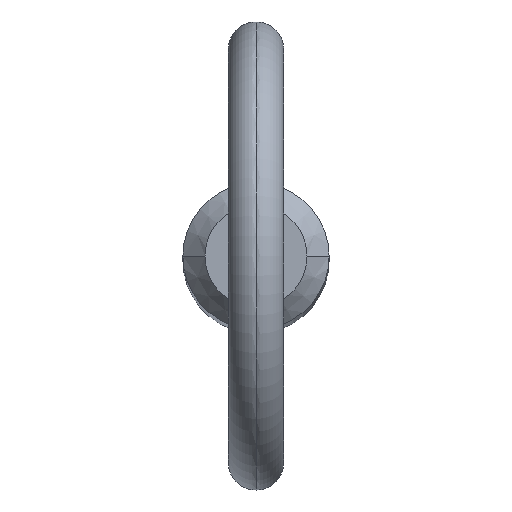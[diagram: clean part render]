
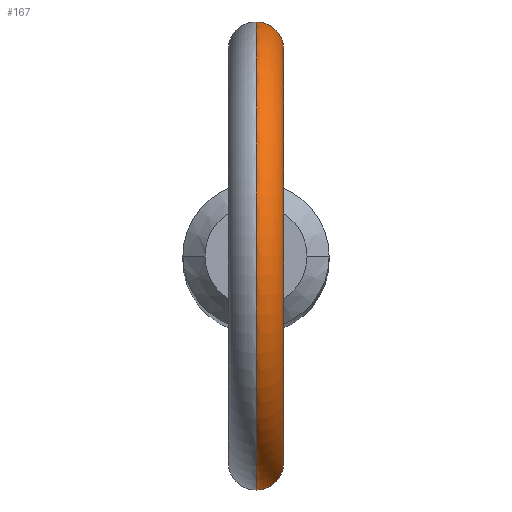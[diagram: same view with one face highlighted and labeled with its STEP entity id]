
A CAD part, top view. The second image highlights one B-rep face of the part: STEP entity #167.
In plain terms, the highlighted toroidal (fillet/blend) face has major radius 11.2 mm and minor radius 1.5 mm.
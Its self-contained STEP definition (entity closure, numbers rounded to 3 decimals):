
#2 = CARTESIAN_POINT ( 'NONE',  ( 0.411, 3.948, 115.591 ) ) ;
#3 = VERTEX_POINT ( 'NONE', #494 ) ;
#7 = DIRECTION ( 'NONE',  ( 0., 0., -1. ) ) ;
#9 = CARTESIAN_POINT ( 'NONE',  ( 1.346, -3.73, 113.208 ) ) ;
#18 = CARTESIAN_POINT ( 'NONE',  ( 0.782, 3.888, 112.637 ) ) ;
#19 = CIRCLE ( 'NONE', #153, 9.7 ) ;
#30 = CARTESIAN_POINT ( 'NONE',  ( 1.488, 3.675, 114.205 ) ) ;
#38 = CARTESIAN_POINT ( 'NONE',  ( 0., 3.965, 112.435 ) ) ;
#41 = DIRECTION ( 'NONE',  ( 0., 0., -1. ) ) ;
#47 = DIRECTION ( 'NONE',  ( 1., 0., 0. ) ) ;
#60 = CARTESIAN_POINT ( 'NONE',  ( 0., -3.965, 112.435 ) ) ;
#64 = AXIS2_PLACEMENT_3D ( 'NONE', #255, #291, #446 ) ;
#74 = CARTESIAN_POINT ( 'NONE',  ( 1.185, 3.786, 114.96 ) ) ;
#85 = CARTESIAN_POINT ( 'NONE',  ( 0., 3.965, 115.647 ) ) ;
#87 = CARTESIAN_POINT ( 'NONE',  ( 0., 3.965, 112.435 ) ) ;
#91 = CARTESIAN_POINT ( 'NONE',  ( 1.493, -3.673, 114.104 ) ) ;
#96 = CARTESIAN_POINT ( 'NONE',  ( 1.028, -3.83, 112.815 ) ) ;
#97 = B_SPLINE_CURVE_WITH_KNOTS ( 'NONE', 3,
 ( #168, #483, #367, #123, #247, #370, #332, #409, #444, #162, #205, #479, #91, #372, #129, #411, #249, #9, #339, #96, #422, #377, #137, #260, #257, #60 ),
 .UNSPECIFIED., .F., .F.,
 ( 4, 2, 2, 2, 2, 2, 2, 2, 2, 2, 2, 2, 4 ),
 ( 0.004, 0.005, 0.005, 0.005, 0.006, 0.006, 0.007, 0.007, 0.007, 0.008, 0.008, 0.008, 0.009 ),
 .UNSPECIFIED. ) ;
#101 = EDGE_LOOP ( 'NONE', ( #310, #485, #102, #493 ) ) ;
#102 = ORIENTED_EDGE ( 'NONE', *, *, #311, .F. ) ;
#105 = VERTEX_POINT ( 'NONE', #316 ) ;
#119 = CARTESIAN_POINT ( 'NONE',  ( 0.927, 3.858, 115.267 ) ) ;
#123 = CARTESIAN_POINT ( 'NONE',  ( 0.404, -3.946, 115.582 ) ) ;
#129 = CARTESIAN_POINT ( 'NONE',  ( 1.499, -3.671, 113.797 ) ) ;
#132 = CARTESIAN_POINT ( 'NONE',  ( 0., 0., 124.5 ) ) ;
#137 = CARTESIAN_POINT ( 'NONE',  ( 0.693, -3.905, 112.59 ) ) ;
#139 = CARTESIAN_POINT ( 'NONE',  ( 0.41, 3.948, 112.474 ) ) ;
#153 = AXIS2_PLACEMENT_3D ( 'NONE', #132, #47, #7 ) ;
#162 = CARTESIAN_POINT ( 'NONE',  ( 1.404, -3.708, 114.501 ) ) ;
#164 = CARTESIAN_POINT ( 'NONE',  ( 0., 3.965, 115.647 ) ) ;
#167 = ADVANCED_FACE ( 'NONE', ( #473 ), #459, .T. ) ;
#168 = CARTESIAN_POINT ( 'NONE',  ( 0., -3.965, 115.647 ) ) ;
#175 = CARTESIAN_POINT ( 'NONE',  ( 1.236, 3.77, 113.029 ) ) ;
#179 = VERTEX_POINT ( 'NONE', #38 ) ;
#184 = CARTESIAN_POINT ( 'NONE',  ( 1.291, 3.75, 114.784 ) ) ;
#192 = CARTESIAN_POINT ( 'NONE',  ( 1.499, 3.671, 113.794 ) ) ;
#197 = CARTESIAN_POINT ( 'NONE',  ( 0.769, 3.894, 115.401 ) ) ;
#200 = CARTESIAN_POINT ( 'NONE',  ( 0.204, 3.965, 112.435 ) ) ;
#205 = CARTESIAN_POINT ( 'NONE',  ( 1.434, -3.697, 114.405 ) ) ;
#223 = CARTESIAN_POINT ( 'NONE',  ( 1.344, 3.731, 113.203 ) ) ;
#240 = DIRECTION ( 'NONE',  ( 1., 0., 0. ) ) ;
#243 = EDGE_CURVE ( 'NONE', #490, #105, #19, .T. ) ;
#247 = CARTESIAN_POINT ( 'NONE',  ( 0.498, -3.935, 115.544 ) ) ;
#249 = CARTESIAN_POINT ( 'NONE',  ( 1.447, -3.692, 113.493 ) ) ;
#255 = CARTESIAN_POINT ( 'NONE',  ( 0., 0., 124.5 ) ) ;
#257 = CARTESIAN_POINT ( 'NONE',  ( 0.205, -3.965, 112.435 ) ) ;
#260 = CARTESIAN_POINT ( 'NONE',  ( 0.409, -3.948, 112.474 ) ) ;
#283 = AXIS2_PLACEMENT_3D ( 'NONE', #394, #240, #41 ) ;
#291 = DIRECTION ( 'NONE',  ( 1., 0., 0. ) ) ;
#302 = CARTESIAN_POINT ( 'NONE',  ( 0.691, 3.905, 112.589 ) ) ;
#305 = CARTESIAN_POINT ( 'NONE',  ( 0.949, 3.851, 112.749 ) ) ;
#310 = ORIENTED_EDGE ( 'NONE', *, *, #348, .F. ) ;
#311 = EDGE_CURVE ( 'NONE', #105, #3, #97, .T. ) ;
#316 = CARTESIAN_POINT ( 'NONE',  ( 0., -3.965, 115.647 ) ) ;
#318 = CARTESIAN_POINT ( 'NONE',  ( 1.441, 3.695, 114.408 ) ) ;
#332 = CARTESIAN_POINT ( 'NONE',  ( 0.925, -3.858, 115.268 ) ) ;
#339 = CARTESIAN_POINT ( 'NONE',  ( 1.237, -3.77, 113.031 ) ) ;
#343 = CARTESIAN_POINT ( 'NONE',  ( 1.026, 3.831, 112.813 ) ) ;
#348 = EDGE_CURVE ( 'NONE', #179, #490, #454, .T. ) ;
#355 = CARTESIAN_POINT ( 'NONE',  ( 1.503, 3.669, 113.898 ) ) ;
#367 = CARTESIAN_POINT ( 'NONE',  ( 0.205, -3.961, 115.634 ) ) ;
#370 = CARTESIAN_POINT ( 'NONE',  ( 0.77, -3.894, 115.4 ) ) ;
#372 = CARTESIAN_POINT ( 'NONE',  ( 1.503, -3.669, 113.899 ) ) ;
#377 = CARTESIAN_POINT ( 'NONE',  ( 0.782, -3.888, 112.637 ) ) ;
#388 = CARTESIAN_POINT ( 'NONE',  ( 1.47, 3.682, 113.592 ) ) ;
#394 = CARTESIAN_POINT ( 'NONE',  ( 0., 0., 124.5 ) ) ;
#406 = CARTESIAN_POINT ( 'NONE',  ( 0.206, 3.965, 115.647 ) ) ;
#409 = CARTESIAN_POINT ( 'NONE',  ( 1.186, -3.786, 114.959 ) ) ;
#411 = CARTESIAN_POINT ( 'NONE',  ( 1.471, -3.682, 113.594 ) ) ;
#422 = CARTESIAN_POINT ( 'NONE',  ( 0.949, -3.851, 112.749 ) ) ;
#429 = CARTESIAN_POINT ( 'NONE',  ( 1.447, 3.692, 113.493 ) ) ;
#444 = CARTESIAN_POINT ( 'NONE',  ( 1.291, -3.75, 114.783 ) ) ;
#446 = DIRECTION ( 'NONE',  ( 0., 0., -1. ) ) ;
#453 = EDGE_CURVE ( 'NONE', #179, #3, #464, .T. ) ;
#454 = B_SPLINE_CURVE_WITH_KNOTS ( 'NONE', 3,
 ( #87, #200, #139, #302, #18, #305, #343, #175, #223, #429, #388, #192, #355, #30, #318, #184, #74, #119, #197, #2, #406, #85 ),
 .UNSPECIFIED., .F., .F.,
 ( 4, 2, 2, 2, 2, 2, 2, 2, 2, 2, 4 ),
 ( 0.001, 0.001, 0.002, 0.002, 0.003, 0.003, 0.003, 0.004, 0.004, 0.005, 0.006 ),
 .UNSPECIFIED. ) ;
#459 = TOROIDAL_SURFACE ( 'NONE', #283, 11.2, 1.5 ) ;
#464 = CIRCLE ( 'NONE', #64, 12.7 ) ;
#473 = FACE_OUTER_BOUND ( 'NONE', #101, .T. ) ;
#479 = CARTESIAN_POINT ( 'NONE',  ( 1.479, -3.679, 114.207 ) ) ;
#483 = CARTESIAN_POINT ( 'NONE',  ( 0.102, -3.965, 115.647 ) ) ;
#485 = ORIENTED_EDGE ( 'NONE', *, *, #453, .T. ) ;
#490 = VERTEX_POINT ( 'NONE', #164 ) ;
#493 = ORIENTED_EDGE ( 'NONE', *, *, #243, .F. ) ;
#494 = CARTESIAN_POINT ( 'NONE',  ( 0., -3.965, 112.435 ) ) ;
